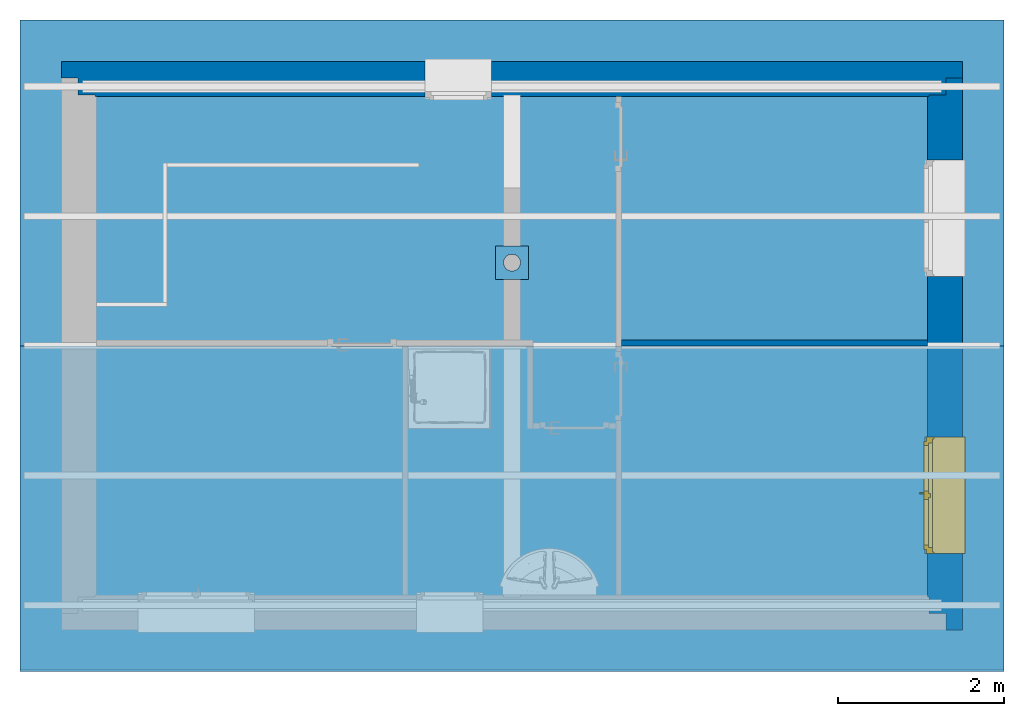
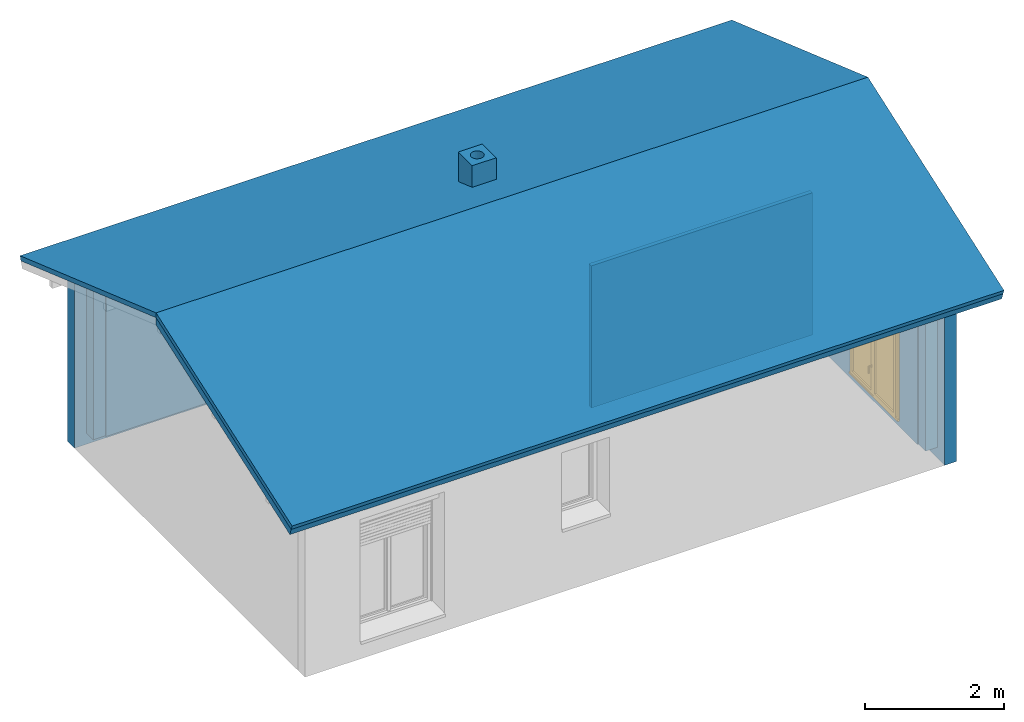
# One storey, part 3 of 7: 3 building element parts, 3 walls, 1 chimney, 1 door, 3 openings, 3 elements without a shape of their own.
"""IFC4 building model written with IfcOpenShell, lengths in metres."""

from ifc_helpers import new_model, entity, si_unit, converted_unit, frame, frame_2d, origin, origin_with_axes, place, context, subcontext, project, spatial, polyline, rectangle, outline, extrude, clip, bounded_halfspace, closed_shell, open_shell, faceted_brep, surface_model, source, transform, mapped, material, layer, layer_set, layer_usage, type_object, element, fill, aggregate, save


model = new_model("IFC4")

# Units and contexts
model_context = context("Model", 3, precision=1e-05, world=origin())
body_context = subcontext(model_context, "Body", "Model", "MODEL_VIEW")
ifc_project = project(units=[si_unit("LENGTHUNIT", "METRE"), si_unit("AREAUNIT", "SQUARE_METRE"), si_unit("VOLUMEUNIT", "CUBIC_METRE"), si_unit("MASSUNIT", "GRAM", prefix="KILO"), converted_unit("PLANEANGLEUNIT", "DEGREE", entity("IfcPlaneAngleMeasure", 0.0174532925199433), si_unit("PLANEANGLEUNIT", "RADIAN"), dimensions=[0, 0, 0, 0, 0, 0, 0])], contexts=[model_context])

# Building, storey
building_placement = place(None, origin())
building = spatial("IfcBuilding", under=ifc_project, at=building_placement, Name="Projet de Construction", CompositionType="ELEMENT")
storey_placement = place(building_placement, frame((0.0, 0.0, 2.8)))
storey = spatial("IfcBuildingStorey", under=building, at=storey_placement, Name="R+1", CompositionType="ELEMENT", Elevation=2.8)

# Wall, opening
ifc_material_1 = material()
ifc_layer_1 = layer(ifc_material_1, 0.2)
ifc_material_2 = material()
ifc_layer_2 = layer(ifc_material_2, 0.2)
ifc_material_3 = material()
ifc_layer_3 = layer(ifc_material_3, 0.02)
ifc_layer_set_1 = layer_set([ifc_layer_1, ifc_layer_2, ifc_layer_3])
ifc_layer_usage_1 = layer_usage(ifc_layer_set_1, "AXIS2", "POSITIVE", 0.0)
wall_1_placement = place(storey_placement, frame((3.5540625, 8.13979166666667, 0.0), z_axis=(0.0, 0.0, 1.0), x_axis=(-1.0, 0.0, 0.0)))
wall_1 = element("IfcWall", 1, at=wall_1_placement, inside=storey, material=ifc_layer_usage_1, context=body_context, shape_type="Clipping", body=[
    clip(clip(clip(clip(extrude(outline(polyline([(-10.84, -0.42), (0.0, -0.42), (0.0, -0.22), (-0.2, -0.22), (-0.2, -0.02), (-0.4, -0.02), (-0.4, 0.0), (-10.44, 0.0), (-10.44, -0.02), (-10.64, -0.02), (-10.64, -0.22), (-10.84, -0.22), (-10.84, -0.42)])), frame((10.84, 0.42, 0.0), z_axis=(0.0, 0.0, 1.0), x_axis=(1.0, 0.0, 0.0)), (0.0, 0.0, 1.0), 3.17000000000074), bounded_halfspace(frame((5.42, 0.354999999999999, 0.2), z_axis=(0.0, 0.0, 1.0), x_axis=(0.0, 1.0, 0.0)), True, origin_with_axes(), polyline([(10.44, 0.4), (10.44, 0.42), (0.4, 0.42), (0.400000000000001, 0.4), (0.2, 0.4), (0.2, 0.2), (10.64, 0.2), (10.64, 0.4), (10.44, 0.4)]))), bounded_halfspace(frame((5.42, 0.0999999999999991, 3.13500000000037), z_axis=(0.0, 0.330350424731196, -0.943858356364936), x_axis=(0.0, -0.943858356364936, -0.330350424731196)), True, origin_with_axes(), polyline([(0.0, 0.199999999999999), (0.0, -9.09494701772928e-16), (10.84, -9.09494701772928e-16), (10.84, 0.199999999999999), (0.0, 0.199999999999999)]))), bounded_halfspace(frame((5.42, 0.3, 2.95000000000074), z_axis=(0.0, 0.0, -1.0), x_axis=(1.0, 0.0, 0.0)), True, origin_with_axes(), polyline([(0.2, 0.2), (10.64, 0.2), (10.64, 0.4), (0.2, 0.4), (0.2, 0.2)]))), bounded_halfspace(frame((5.42, 0.41, 2.8), z_axis=(0.0, 0.0, -1.0), x_axis=(1.0, 0.0, 0.0)), True, origin_with_axes(), polyline([(0.4, 0.4), (10.44, 0.4), (10.44, 0.42), (0.4, 0.42), (0.4, 0.4)]))),
])
opening_1_placement = place(wall_1_placement, frame((6.46402015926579, 0.2, 1.1), z_axis=(0.0, -1.0, 0.0), x_axis=(0.0, 0.0, 1.0)))
element("IfcOpeningStandardCase", 2, at=opening_1_placement, cuts=wall_1, Name="Baie de fenêtre", PredefinedType="OPENING", context=body_context, shape_type="SweptSolid", body=[
    extrude(outline(polyline([(0.0, 0.8), (1.35, 0.8), (1.35, 0.0), (0.0, 0.0), (0.0, 0.8)])), origin_with_axes(), (0.0, 0.0, 1.0), 0.2),
    extrude(outline(polyline([(0.0, 0.8), (1.35, 0.8), (1.35, 0.0), (0.0, 0.0), (0.0, 0.8)])), frame((0.0, 0.0, -0.2), z_axis=(0.0, 0.0, 1.0), x_axis=(1.0, 0.0, 0.0)), (0.0, 0.0, 1.0), 0.2),
    extrude(outline(polyline([(0.0, 0.8), (1.35, 0.8), (1.35, 0.0), (0.0, 0.0), (0.0, 0.8)])), frame((0.0, 0.0, -0.22), z_axis=(0.0, 0.0, 1.0), x_axis=(1.0, 0.0, 0.0)), (0.0, 0.0, 1.0), 0.02),
])

# Wall, openings, door
ifc_material_4 = material()
ifc_layer_4 = layer(ifc_material_4, 0.2)
ifc_material_5 = material()
ifc_layer_5 = layer(ifc_material_5, 0.2)
ifc_material_6 = material()
ifc_layer_6 = layer(ifc_material_6, 0.02)
ifc_layer_set_2 = layer_set([ifc_layer_4, ifc_layer_5, ifc_layer_6])
ifc_layer_usage_2 = layer_usage(ifc_layer_set_2, "AXIS2", "POSITIVE", 0.0)
wall_2_placement = place(storey_placement, frame((3.5540625, 1.29979166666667, 0.0), z_axis=(0.0, 0.0, 1.0), x_axis=(2.05458140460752e-16, 1.0, 0.0)))
wall_2 = element("IfcWall", 3, at=wall_2_placement, inside=storey, material=ifc_layer_usage_2, context=body_context, shape_type="Clipping", body=[
    clip(clip(clip(clip(extrude(outline(polyline([(8.62924189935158e-17, -0.42), (6.64, -0.42), (6.64, -0.22), (6.44, -0.22), (6.44, -0.02), (6.42, -0.02), (6.42, -4.52007909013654e-17), (0.4, 8.21832561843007e-17), (0.4, -0.0199999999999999), (0.2, -0.02), (0.2, -0.22), (4.52007909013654e-17, -0.22), (8.62924189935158e-17, -0.42)])), frame((-8.62924189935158e-17, 0.42, 0.0), z_axis=(0.0, 0.0, 1.0), x_axis=(1.0, 0.0, 0.0)), (0.0, 0.0, 1.0), 4.29700000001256), bounded_halfspace(frame((3.365, 0.355, 0.2), z_axis=(0.0, 0.0, 1.0), x_axis=(-2.05458140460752e-16, 1.0, 0.0)), True, origin_with_axes(), polyline([(6.44, 0.2), (6.44, 0.4), (6.42, 0.4), (6.42, 0.42), (0.4, 0.42), (0.4, 0.4), (0.199999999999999, 0.4), (0.2, 0.2), (6.44, 0.2)]))), bounded_halfspace(frame((5.5, 0.2, 3.56900000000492), z_axis=(-0.330350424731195, -1.50758855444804e-16, -0.943858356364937), x_axis=(0.943858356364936, 6.06261507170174e-17, -0.330350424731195)), True, origin_with_axes(), polyline([(3.42, -2.06827861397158e-16), (6.64, -2.01948391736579e-31), (6.64, 0.2), (6.44, 0.2), (6.44, 0.4), (3.42, 0.4), (3.42, -2.06827861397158e-16)]))), bounded_halfspace(frame((3.41, 0.41, 2.8), z_axis=(0.0, 0.0, -1.0), x_axis=(1.0, -2.11601407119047e-17, 0.0)), True, origin_with_axes(), polyline([(0.4, 0.4), (6.42, 0.4), (6.42, 0.42), (0.4, 0.42), (0.4, 0.4)]))), bounded_halfspace(frame((1.20666666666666, 0.2, 3.52233333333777), z_axis=(0.330350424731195, -2.44558932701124e-16, -0.943858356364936), x_axis=(2.05458140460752e-16, -1.0, 0.0)), True, origin_with_axes(), polyline([(-4.95838978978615e-16, 0.2), (-4.54747350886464e-16, 4.54747350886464e-16), (3.42, -2.06827861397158e-16), (3.42, 0.4), (0.199999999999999, 0.4), (0.2, 0.2), (-4.95838978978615e-16, 0.2)]))),
])
opening_2_placement = place(wall_2_placement, frame((2.32, 0.2, 0.3), z_axis=(0.0, -1.0, 0.0), x_axis=(0.0, 0.0, 1.0)))
opening_2 = element("IfcOpeningStandardCase", 4, at=opening_2_placement, cuts=wall_2, Name="Baie de porte", PredefinedType="OPENING", context=body_context, shape_type="SweptSolid", body=[
    extrude(outline(polyline([(0.0, 1.4), (2.15, 1.4), (2.15, 0.0), (0.0, 0.0), (0.0, 1.4)])), origin_with_axes(), (0.0, 0.0, 1.0), 0.2),
    extrude(outline(polyline([(0.0, 1.4), (2.15, 1.4), (2.15, 0.0), (0.0, 0.0), (0.0, 1.4)])), frame((0.0, 6.49639072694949e-17, -0.2), z_axis=(0.0, 0.0, 1.0), x_axis=(1.0, 0.0, 0.0)), (0.0, 0.0, 1.0), 0.2),
    extrude(outline(polyline([(0.0, 1.4), (2.15, 1.4), (2.15, 0.0), (0.0, 0.0), (0.0, 1.4)])), frame((0.0, 7.14602979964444e-17, -0.22), z_axis=(0.0, 0.0, 1.0), x_axis=(1.0, 0.0, 0.0)), (0.0, 0.0, 1.0), 0.02),
])
opening_3_placement = place(wall_2_placement, frame((5.655, 0.2, 1.0), z_axis=(0.0, -1.0, 0.0), x_axis=(0.0, 0.0, 1.0)))
element("IfcOpeningStandardCase", 5, at=opening_3_placement, cuts=wall_2, Name="Baie de fenêtre", PredefinedType="OPENING", context=body_context, shape_type="SweptSolid", body=[
    extrude(outline(polyline([(0.0, 1.4), (1.45, 1.4), (1.45, 0.0), (0.0, 0.0), (0.0, 1.4)])), origin_with_axes(), (0.0, 0.0, 1.0), 0.2),
    extrude(outline(polyline([(0.0, 1.4), (1.45, 1.4), (1.45, 0.0), (0.0, 0.0), (0.0, 1.4)])), frame((0.0, 6.49639072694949e-17, -0.2), z_axis=(0.0, 0.0, 1.0), x_axis=(1.0, 0.0, 0.0)), (0.0, 0.0, 1.0), 0.2),
    extrude(outline(polyline([(0.0, 1.4), (1.45, 1.4), (1.45, 0.0), (0.0, 0.0), (0.0, 1.4)])), frame((0.0, 7.14602979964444e-17, -0.22), z_axis=(0.0, 0.0, 1.0), x_axis=(1.0, 0.0, 0.0)), (0.0, 0.0, 1.0), 0.02),
])
ifc_material_7 = material()
door_type = type_object("IfcDoorType", Name="3 vantaux blanc, monté", OperationType="NOTDEFINED", ParameterTakesPrecedence=False, PredefinedType="DOOR")
shared_shape = source(origin_with_axes(), body_context, "Body", "SurfaceModel", [
    surface_model("IfcShellBasedSurfaceModel", [(0.0, 0.0199999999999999, 0.03), (0.0, 0.39, 0.03), (-3.67394039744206e-18, 0.39, 0.06), (-2.44929359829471e-18, 0.0, 0.05), (3.67394039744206e-18, 0.0, 0.0), (3.67394039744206e-18, 0.0199999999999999, 0.0), (1.4, 0.39, 0.0300000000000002), (1.4, 0.0199999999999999, 0.0300000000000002), (1.4, 0.0199999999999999, 1.70530256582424e-16), (1.4, 0.0, 1.70530256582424e-16), (1.4, 0.0, 0.0500000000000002), (1.4, 0.39, 0.0600000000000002)], [closed_shell([[[0, 1, 2, 3, 4, 5]], [[6, 7, 8, 9, 10, 11]], [[1, 0, 7, 6]], [[2, 1, 6, 11]], [[3, 2, 11, 10]], [[4, 3, 10, 9]], [[5, 4, 9, 8]], [[0, 5, 8, 7]]], orient=[[False], [False], [False], [False], [False], [False], [False], [False]])]),
    surface_model("IfcShellBasedSurfaceModel", [(0.0, 0.48, 0.03), (-3.67394039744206e-18, 0.48, 0.06), (-3.67394039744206e-18, 0.43, 0.06), (0.0, 0.43, 0.03), (1.4, 0.43, 0.0300000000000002), (1.4, 0.43, 0.0600000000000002), (1.4, 0.48, 0.0600000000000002), (1.4, 0.48, 0.0300000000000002)], [closed_shell([[[0, 1, 2, 3]], [[4, 5, 6, 7]], [[3, 4, 7, 0]], [[2, 5, 4, 3]], [[1, 6, 5, 2]], [[0, 7, 6, 1]]], orient=[[False], [False], [False], [False], [False], [False]])]),
    surface_model("IfcShellBasedSurfaceModel", [(0.0, 0.39, 2.18), (0.0, 0.39, 1.98), (1.4, 0.39, 1.98), (1.4, 0.39, 2.18), (0.0, 0.19, 1.98), (0.0, 0.19, 2.18), (1.4, 0.19, 2.18), (1.4, 0.19, 1.98)], [closed_shell([[[0, 1, 2, 3]], [[4, 5, 6, 7]], [[1, 0, 5, 4]], [[2, 1, 4, 7]], [[3, 2, 7, 6]], [[0, 3, 6, 5]]], orient=[[False], [False], [False], [False], [False], [False]])]),
    surface_model("IfcShellBasedSurfaceModel", [(0.0, 0.39, 1.98), (0.0, 0.39, 0.03), (0.02, 0.39, 0.03), (0.02, 0.39, 1.98), (0.0, 0.37, 0.03), (0.0, 0.37, 1.98), (0.02, 0.37, 1.98), (0.02, 0.37, 0.03)], [closed_shell([[[0, 1, 2, 3]], [[4, 5, 6, 7]], [[1, 0, 5, 4]], [[2, 1, 4, 7]], [[3, 2, 7, 6]], [[0, 3, 6, 5]]], orient=[[False], [False], [False], [False], [False], [False]])]),
    surface_model("IfcShellBasedSurfaceModel", [(1.38, 0.39, 1.98), (1.38, 0.39, 0.03), (1.4, 0.39, 0.03), (1.4, 0.39, 1.98), (1.38, 0.37, 0.03), (1.38, 0.37, 1.98), (1.4, 0.37, 1.98), (1.4, 0.37, 0.03)], [closed_shell([[[0, 1, 2, 3]], [[4, 5, 6, 7]], [[1, 0, 5, 4]], [[2, 1, 4, 7]], [[3, 2, 7, 6]], [[0, 3, 6, 5]]], orient=[[False], [False], [False], [False], [False], [False]])]),
    surface_model("IfcShellBasedSurfaceModel", [(0.01, 0.385, 1.975), (0.01, 0.385, 1.925), (1.39, 0.385, 1.925), (1.39, 0.385, 1.975), (0.01, 0.375, 1.925), (0.01, 0.375, 1.975), (1.39, 0.375, 1.975), (1.39, 0.375, 1.925)], [closed_shell([[[0, 1, 2, 3]], [[4, 5, 6, 7]], [[1, 0, 5, 4]], [[2, 1, 4, 7]], [[3, 2, 7, 6]], [[0, 3, 6, 5]]], orient=[[False], [False], [False], [False], [False], [False]])]),
    surface_model("IfcShellBasedSurfaceModel", [(0.01, 0.385, 1.92), (0.01, 0.385, 1.87), (1.39, 0.385, 1.87), (1.39, 0.385, 1.92), (0.01, 0.375, 1.87), (0.01, 0.375, 1.92), (1.39, 0.375, 1.92), (1.39, 0.375, 1.87)], [closed_shell([[[0, 1, 2, 3]], [[4, 5, 6, 7]], [[1, 0, 5, 4]], [[2, 1, 4, 7]], [[3, 2, 7, 6]], [[0, 3, 6, 5]]], orient=[[False], [False], [False], [False], [False], [False]])]),
    surface_model("IfcShellBasedSurfaceModel", [(0.01, 0.385, 1.865), (0.01, 0.385, 1.815), (1.39, 0.385, 1.815), (1.39, 0.385, 1.865), (0.01, 0.375, 1.815), (0.01, 0.375, 1.865), (1.39, 0.375, 1.865), (1.39, 0.375, 1.815)], [closed_shell([[[0, 1, 2, 3]], [[4, 5, 6, 7]], [[1, 0, 5, 4]], [[2, 1, 4, 7]], [[3, 2, 7, 6]], [[0, 3, 6, 5]]], orient=[[False], [False], [False], [False], [False], [False]])]),
    surface_model("IfcShellBasedSurfaceModel", [(0.01, 0.385, 1.81), (0.01, 0.385, 1.76), (1.39, 0.385, 1.76), (1.39, 0.385, 1.81), (0.01, 0.375, 1.76), (0.01, 0.375, 1.81), (1.39, 0.375, 1.81), (1.39, 0.375, 1.76)], [closed_shell([[[0, 1, 2, 3]], [[4, 5, 6, 7]], [[1, 0, 5, 4]], [[2, 1, 4, 7]], [[3, 2, 7, 6]], [[0, 3, 6, 5]]], orient=[[False], [False], [False], [False], [False], [False]])]),
    surface_model("IfcShellBasedSurfaceModel", [(0.01, 0.385, 1.755), (0.01, 0.385, 1.705), (1.39, 0.385, 1.705), (1.39, 0.385, 1.755), (0.01, 0.375, 1.705), (0.01, 0.375, 1.755), (1.39, 0.375, 1.755), (1.39, 0.375, 1.705)], [closed_shell([[[0, 1, 2, 3]], [[4, 5, 6, 7]], [[1, 0, 5, 4]], [[2, 1, 4, 7]], [[3, 2, 7, 6]], [[0, 3, 6, 5]]], orient=[[False], [False], [False], [False], [False], [False]])]),
    surface_model("IfcShellBasedSurfaceModel", [(0.01, 0.385, 1.7), (0.01, 0.385, 1.65), (1.39, 0.385, 1.65), (1.39, 0.385, 1.7), (0.01, 0.375, 1.65), (0.01, 0.375, 1.7), (1.39, 0.375, 1.7), (1.39, 0.375, 1.65)], [closed_shell([[[0, 1, 2, 3]], [[4, 5, 6, 7]], [[1, 0, 5, 4]], [[2, 1, 4, 7]], [[3, 2, 7, 6]], [[0, 3, 6, 5]]], orient=[[False], [False], [False], [False], [False], [False]])]),
    surface_model("IfcShellBasedSurfaceModel", [(0.01, 0.385, 1.645), (0.01, 0.385, 1.595), (1.39, 0.385, 1.595), (1.39, 0.385, 1.645), (0.01, 0.375, 1.595), (0.01, 0.375, 1.645), (1.39, 0.375, 1.645), (1.39, 0.375, 1.595)], [closed_shell([[[0, 1, 2, 3]], [[4, 5, 6, 7]], [[1, 0, 5, 4]], [[2, 1, 4, 7]], [[3, 2, 7, 6]], [[0, 3, 6, 5]]], orient=[[False], [False], [False], [False], [False], [False]])]),
    surface_model("IfcShellBasedSurfaceModel", [(0.01, 0.385, 1.59), (0.01, 0.385, 1.54), (1.39, 0.385, 1.54), (1.39, 0.385, 1.59), (0.01, 0.375, 1.54), (0.01, 0.375, 1.59), (1.39, 0.375, 1.59), (1.39, 0.375, 1.54)], [closed_shell([[[0, 1, 2, 3]], [[4, 5, 6, 7]], [[1, 0, 5, 4]], [[2, 1, 4, 7]], [[3, 2, 7, 6]], [[0, 3, 6, 5]]], orient=[[False], [False], [False], [False], [False], [False]])]),
    surface_model("IfcShellBasedSurfaceModel", [(0.01, 0.385, 1.535), (0.01, 0.385, 1.485), (1.39, 0.385, 1.485), (1.39, 0.385, 1.535), (0.01, 0.375, 1.485), (0.01, 0.375, 1.535), (1.39, 0.375, 1.535), (1.39, 0.375, 1.485)], [closed_shell([[[0, 1, 2, 3]], [[4, 5, 6, 7]], [[1, 0, 5, 4]], [[2, 1, 4, 7]], [[3, 2, 7, 6]], [[0, 3, 6, 5]]], orient=[[False], [False], [False], [False], [False], [False]])]),
    surface_model("IfcShellBasedSurfaceModel", [(0.01, 0.385, 1.48), (0.01, 0.385, 1.43), (1.39, 0.385, 1.43), (1.39, 0.385, 1.48), (0.01, 0.375, 1.43), (0.01, 0.375, 1.48), (1.39, 0.375, 1.48), (1.39, 0.375, 1.43)], [closed_shell([[[0, 1, 2, 3]], [[4, 5, 6, 7]], [[1, 0, 5, 4]], [[2, 1, 4, 7]], [[3, 2, 7, 6]], [[0, 3, 6, 5]]], orient=[[False], [False], [False], [False], [False], [False]])]),
    surface_model("IfcShellBasedSurfaceModel", [(0.0, 0.46, 2.18), (0.0, 0.46, 0.03), (0.07, 0.46, 0.03), (0.07, 0.46, 2.18), (0.0, 0.39, 0.03), (0.0, 0.39, 2.18), (0.07, 0.39, 2.18), (0.07, 0.39, 0.03)], [closed_shell([[[0, 1, 2, 3]], [[4, 5, 6, 7]], [[1, 0, 5, 4]], [[2, 1, 4, 7]], [[3, 2, 7, 6]], [[0, 3, 6, 5]]], orient=[[False], [False], [False], [False], [False], [False]])]),
    surface_model("IfcShellBasedSurfaceModel", [(1.33, 0.46, 2.18), (1.33, 0.46, 0.03), (1.4, 0.46, 0.03), (1.4, 0.46, 2.18), (1.33, 0.39, 0.03), (1.33, 0.39, 2.18), (1.4, 0.39, 2.18), (1.4, 0.39, 0.03)], [closed_shell([[[0, 1, 2, 3]], [[4, 5, 6, 7]], [[1, 0, 5, 4]], [[2, 1, 4, 7]], [[3, 2, 7, 6]], [[0, 3, 6, 5]]], orient=[[False], [False], [False], [False], [False], [False]])]),
    surface_model("IfcShellBasedSurfaceModel", [(0.07, 0.46, 0.1), (0.07, 0.46, 0.03), (1.33, 0.46, 0.03), (1.33, 0.46, 0.1), (0.07, 0.39, 0.03), (0.07, 0.39, 0.1), (1.33, 0.39, 0.1), (1.33, 0.39, 0.03)], [closed_shell([[[0, 1, 2, 3]], [[4, 5, 6, 7]], [[1, 0, 5, 4]], [[2, 1, 4, 7]], [[3, 2, 7, 6]], [[0, 3, 6, 5]]], orient=[[False], [False], [False], [False], [False], [False]])]),
    surface_model("IfcShellBasedSurfaceModel", [(0.07, 0.46, 2.18), (0.07, 0.46, 2.11), (1.33, 0.46, 2.11), (1.33, 0.46, 2.18), (0.07, 0.39, 2.11), (0.07, 0.39, 2.18), (1.33, 0.39, 2.18), (1.33, 0.39, 2.11)], [closed_shell([[[0, 1, 2, 3]], [[4, 5, 6, 7]], [[1, 0, 5, 4]], [[2, 1, 4, 7]], [[3, 2, 7, 6]], [[0, 3, 6, 5]]], orient=[[False], [False], [False], [False], [False], [False]])]),
    surface_model("IfcShellBasedSurfaceModel", [(0.05, 0.49, 2.13), (0.05, 0.49, 0.08), (0.1, 0.49, 0.08), (0.1, 0.49, 2.13), (0.05, 0.44, 0.08), (0.05, 0.44, 2.13), (0.1, 0.44, 2.13), (0.1, 0.44, 0.08)], [closed_shell([[[0, 1, 2, 3]], [[4, 5, 6, 7]], [[1, 0, 5, 4]], [[2, 1, 4, 7]], [[3, 2, 7, 6]], [[0, 3, 6, 5]]], orient=[[False], [False], [False], [False], [False], [False]])]),
    surface_model("IfcShellBasedSurfaceModel", [(0.6495, 0.49, 2.13), (0.6495, 0.49, 0.08), (0.6995, 0.49, 0.08), (0.6995, 0.49, 2.13), (0.6495, 0.44, 0.08), (0.6495, 0.44, 2.13), (0.6995, 0.44, 2.13), (0.6995, 0.44, 0.08)], [closed_shell([[[0, 1, 2, 3]], [[4, 5, 6, 7]], [[1, 0, 5, 4]], [[2, 1, 4, 7]], [[3, 2, 7, 6]], [[0, 3, 6, 5]]], orient=[[False], [False], [False], [False], [False], [False]])]),
    surface_model("IfcShellBasedSurfaceModel", [(0.1, 0.49, 0.13), (0.1, 0.49, 0.08), (0.6495, 0.49, 0.08), (0.6495, 0.49, 0.13), (0.1, 0.44, 0.08), (0.1, 0.44, 0.13), (0.6495, 0.44, 0.13), (0.6495, 0.44, 0.08)], [closed_shell([[[0, 1, 2, 3]], [[4, 5, 6, 7]], [[1, 0, 5, 4]], [[2, 1, 4, 7]], [[3, 2, 7, 6]], [[0, 3, 6, 5]]], orient=[[False], [False], [False], [False], [False], [False]])]),
    surface_model("IfcShellBasedSurfaceModel", [(0.1, 0.49, 2.13), (0.1, 0.49, 2.08), (0.6495, 0.49, 2.08), (0.6495, 0.49, 2.13), (0.1, 0.44, 2.08), (0.1, 0.44, 2.13), (0.6495, 0.44, 2.13), (0.6495, 0.44, 2.08)], [closed_shell([[[0, 1, 2, 3]], [[4, 5, 6, 7]], [[1, 0, 5, 4]], [[2, 1, 4, 7]], [[3, 2, 7, 6]], [[0, 3, 6, 5]]], orient=[[False], [False], [False], [False], [False], [False]])]),
    surface_model("IfcShellBasedSurfaceModel", [(0.6745, 0.44, 2.11), (0.6745, 0.44, 0.1), (0.7245, 0.44, 0.1), (0.7245, 0.44, 2.11), (0.6745, 0.415, 0.1), (0.6745, 0.415, 2.11), (0.7245, 0.415, 2.11), (0.7245, 0.415, 0.1)], [closed_shell([[[0, 1, 2, 3]], [[4, 5, 6, 7]], [[1, 0, 5, 4]], [[2, 1, 4, 7]], [[3, 2, 7, 6]], [[0, 3, 6, 5]]], orient=[[False], [False], [False], [False], [False], [False]])]),
    surface_model("IfcShellBasedSurfaceModel", [(0.662, 0.49, 0.6), (0.687, 0.49, 0.6), (0.687, 0.49, 0.56), (0.662, 0.49, 0.56), (0.662, 0.5, 0.56), (0.687, 0.5, 0.56), (0.687, 0.5, 0.6), (0.662, 0.5, 0.6)], [closed_shell([[[0, 1, 2, 3]], [[4, 5, 6, 7]], [[3, 4, 7, 0]], [[2, 5, 4, 3]], [[1, 6, 5, 2]], [[0, 7, 6, 1]]], orient=[[False], [False], [False], [False], [False], [False]])]),
    surface_model("IfcShellBasedSurfaceModel", [(0.6845, 0.5, 0.58), (0.683160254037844, 0.5, 0.575), (0.6795, 0.5, 0.571339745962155), (0.6745, 0.5, 0.57), (0.6695, 0.5, 0.571339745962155), (0.665839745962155, 0.5, 0.575), (0.6645, 0.5, 0.58), (0.665839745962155, 0.5, 0.585), (0.6695, 0.5, 0.588660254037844), (0.6745, 0.5, 0.59), (0.6795, 0.5, 0.588660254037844), (0.683160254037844, 0.5, 0.585), (0.683160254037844, 0.545, 0.585), (0.6845, 0.54, 0.58), (0.6795, 0.548660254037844, 0.588660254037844), (0.6745, 0.55, 0.59), (0.6695, 0.548660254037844, 0.588660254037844), (0.665839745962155, 0.545, 0.585), (0.6645, 0.54, 0.58), (0.665839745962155, 0.535, 0.575), (0.6695, 0.531339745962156, 0.571339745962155), (0.6745, 0.53, 0.57), (0.6795, 0.531339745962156, 0.571339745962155), (0.683160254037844, 0.535, 0.575), (0.6845, 0.54, 0.465), (0.683160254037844, 0.545, 0.465), (0.6795, 0.548660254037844, 0.465), (0.6745, 0.55, 0.465), (0.6695, 0.548660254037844, 0.465), (0.665839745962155, 0.545, 0.465), (0.6645, 0.54, 0.465), (0.665839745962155, 0.535, 0.465), (0.6695, 0.531339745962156, 0.465), (0.6745, 0.53, 0.465), (0.6795, 0.531339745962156, 0.465), (0.683160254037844, 0.535, 0.465)], [closed_shell([[[0, 1, 2, 3, 4, 5, 6, 7, 8, 9, 10, 11]], [[0, 11, 12, 13]], [[11, 10, 14, 12]], [[10, 9, 15, 14]], [[9, 8, 16, 15]], [[8, 7, 17, 16]], [[7, 6, 18, 17]], [[6, 5, 19, 18]], [[5, 4, 20, 19]], [[4, 3, 21, 20]], [[3, 2, 22, 21]], [[2, 1, 23, 22]], [[1, 0, 13, 23]], [[24, 25, 26, 27, 28, 29, 30, 31, 32, 33, 34, 35]], [[13, 12, 25, 24]], [[12, 14, 26, 25]], [[14, 15, 27, 26]], [[15, 16, 28, 27]], [[16, 17, 29, 28]], [[17, 18, 30, 29]], [[18, 19, 31, 30]], [[19, 20, 32, 31]], [[20, 21, 33, 32]], [[21, 22, 34, 33]], [[22, 23, 35, 34]], [[23, 13, 24, 35]]], orient=[[False], [False], [False], [False], [False], [False], [False], [False], [False], [False], [False], [False], [False], [False], [False], [False], [False], [False], [False], [False], [False], [False], [False], [False], [False], [False]])]),
    surface_model("IfcShellBasedSurfaceModel", [(0.7005, 0.49, 2.13), (0.7005, 0.49, 0.08), (0.7505, 0.49, 0.08), (0.7505, 0.49, 2.13), (0.7005, 0.44, 0.08), (0.7005, 0.44, 2.13), (0.7505, 0.44, 2.13), (0.7505, 0.44, 0.08)], [closed_shell([[[0, 1, 2, 3]], [[4, 5, 6, 7]], [[1, 0, 5, 4]], [[2, 1, 4, 7]], [[3, 2, 7, 6]], [[0, 3, 6, 5]]], orient=[[False], [False], [False], [False], [False], [False]])]),
    surface_model("IfcShellBasedSurfaceModel", [(1.3, 0.49, 2.13), (1.3, 0.49, 0.08), (1.35, 0.49, 0.08), (1.35, 0.49, 2.13), (1.3, 0.44, 0.08), (1.3, 0.44, 2.13), (1.35, 0.44, 2.13), (1.35, 0.44, 0.08)], [closed_shell([[[0, 1, 2, 3]], [[4, 5, 6, 7]], [[1, 0, 5, 4]], [[2, 1, 4, 7]], [[3, 2, 7, 6]], [[0, 3, 6, 5]]], orient=[[False], [False], [False], [False], [False], [False]])]),
    surface_model("IfcShellBasedSurfaceModel", [(0.7505, 0.49, 0.13), (0.7505, 0.49, 0.08), (1.3, 0.49, 0.08), (1.3, 0.49, 0.13), (0.7505, 0.44, 0.08), (0.7505, 0.44, 0.13), (1.3, 0.44, 0.13), (1.3, 0.44, 0.08)], [closed_shell([[[0, 1, 2, 3]], [[4, 5, 6, 7]], [[1, 0, 5, 4]], [[2, 1, 4, 7]], [[3, 2, 7, 6]], [[0, 3, 6, 5]]], orient=[[False], [False], [False], [False], [False], [False]])]),
    surface_model("IfcShellBasedSurfaceModel", [(0.7505, 0.49, 2.13), (0.7505, 0.49, 2.08), (1.3, 0.49, 2.08), (1.3, 0.49, 2.13), (0.7505, 0.44, 2.08), (0.7505, 0.44, 2.13), (1.3, 0.44, 2.13), (1.3, 0.44, 2.08)], [closed_shell([[[0, 1, 2, 3]], [[4, 5, 6, 7]], [[1, 0, 5, 4]], [[2, 1, 4, 7]], [[3, 2, 7, 6]], [[0, 3, 6, 5]]], orient=[[False], [False], [False], [False], [False], [False]])]),
    surface_model("IfcShellBasedSurfaceModel", [(0.1, 0.465, 0.13), (0.6495, 0.465, 0.13), (0.6495, 0.465, 2.08), (0.1, 0.465, 2.08)], [open_shell([[[0, 1, 2, 3]]], orient=[[False]])]),
    surface_model("IfcShellBasedSurfaceModel", [(0.7505, 0.465, 0.13), (1.3, 0.465, 0.13), (1.3, 0.465, 2.08), (0.7505, 0.465, 2.08)], [open_shell([[[0, 1, 2, 3]]], orient=[[False]])]),
])
door_placement = place(opening_2_placement, frame((-0.03, 4.54747350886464e-16, 0.229999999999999), z_axis=(1.0, 0.0, 0.0), x_axis=(0.0, 1.0, 8.29934605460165e-17)))
door = element("IfcDoor", 6, at=door_placement, inside=storey, type_object=door_type, material=ifc_material_7, Name="3 vantaux blanc, monté", OverallHeight=2.15, OverallWidth=1.4, context=body_context, shape_type="MappedRepresentation", body=[
    mapped(shared_shape, transform((0.0, 0.0, 0.0), x_axis=(1.0, 0.0, 0.0), y_axis=(0.0, -1.0, 0.0), z_axis=(0.0, 0.0, 1.0), scale=1.0)),
])
fill(opening_2, door)

# Wall
ifc_material_8 = material()
ifc_layer_7 = layer(ifc_material_8, 0.07)
ifc_layer_set_3 = layer_set([ifc_layer_7])
ifc_layer_usage_3 = layer_usage(ifc_layer_set_3, "AXIS2", "POSITIVE", 0.0)
wall_3_placement = place(storey_placement, frame((3.1340625, 4.78979166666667, 0.3), z_axis=(0.0, 0.0, 1.0), x_axis=(-1.0, 0.0, 0.0)))
element("IfcWall", 7, at=wall_3_placement, inside=storey, material=ifc_layer_usage_3, context=body_context, shape_type="SweptSolid", body=[
    extrude(rectangle(XDim=3.68, YDim=0.07, at=frame_2d((1.84, 0.035), x_axis=(1.0, 0.0))), origin_with_axes(), (0.0, 0.0, 1.0), 2.5),
])

# Chimney
ifc_material_9 = material()
chimney_placement = place(storey_placement, frame((-2.0659375, 5.51979166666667, 0.3)))
element("IfcChimney", 8, at=chimney_placement, inside=storey, material=ifc_material_9, PredefinedType="USERDEFINED", context=body_context, shape_type="SweptSolid", body=[
    extrude(outline(polyline([(0.0, 0.0), (0.4, 0.0), (0.4, 0.4), (0.0, 0.4), (0.0, 0.0)]), holes=[polyline([(0.184161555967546, 0.3), (0.215838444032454, 0.3), (0.245964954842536, 0.290211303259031), (0.271592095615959, 0.271592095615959), (0.290211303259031, 0.245964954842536), (0.3, 0.215838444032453), (0.3, 0.184161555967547), (0.290211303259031, 0.154035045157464), (0.271592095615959, 0.128407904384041), (0.245964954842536, 0.10978869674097), (0.215838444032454, 0.1), (0.184161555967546, 0.1), (0.154035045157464, 0.10978869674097), (0.128407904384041, 0.128407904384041), (0.109788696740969, 0.154035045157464), (0.1, 0.184161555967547), (0.1, 0.215838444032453), (0.109788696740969, 0.245964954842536), (0.128407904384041, 0.271592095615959), (0.154035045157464, 0.290211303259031), (0.184161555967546, 0.3)])]), origin_with_axes(), (0.0, 0.0, 1.0), 4.30889620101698),
])

# Roof, slabs, building element parts
roof_placement = place(storey_placement, frame((0.0, 0.0, -2.8)))
roof = element("IfcRoof", 9, at=roof_placement, inside=storey, PredefinedType="NOTDEFINED")
ifc_material_10 = material()
slab_1_placement = place(roof_placement, origin())
slab_1 = element("IfcSlab", 10, at=slab_1_placement, material=ifc_material_10, PredefinedType="ROOF")
ifc_material_11 = material()
building_element_part_1_placement = place(storey_placement, frame((0.0, 0.0, -2.8)))
building_element_part_1 = element("IfcBuildingElementPart", 11, at=building_element_part_1_placement, material=ifc_material_11, context=body_context, shape_type="Brep", body=[
    faceted_brep([(4.0540625, 4.71979166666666, 7.22413772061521), (-7.7859375, 4.71979166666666, 7.22413772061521), (-7.7859375, 0.826219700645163, 5.86138753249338), (4.0540625, 0.826219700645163, 5.86138753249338), (4.0540625, 4.71979166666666, 7.30889620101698), (4.0540625, 0.799791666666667, 5.93689620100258), (-7.7859375, 0.799791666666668, 5.93689620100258), (-7.7859375, 4.71979166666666, 7.30889620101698)], [[[0, 1, 2, 3]], [[4, 5, 6, 7]], [[4, 7, 1, 0]], [[7, 6, 2, 1]], [[6, 5, 3, 2]], [[5, 4, 0, 3]]], orient=[[False], [False], [False], [False], [False], [False]]),
])
ifc_material_12 = material()
building_element_part_2_placement = place(storey_placement, frame((0.0, 0.0, -2.8)))
building_element_part_2 = element("IfcBuildingElementPart", 12, at=building_element_part_2_placement, material=ifc_material_12, context=body_context, shape_type="Brep", body=[
    faceted_brep([(4.0540625, 4.71979166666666, 7.09700000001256), (-7.7859375, 4.71979166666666, 7.09700000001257), (-7.7859375, 0.865861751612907, 5.74812452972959), (4.0540625, 0.865861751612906, 5.74812452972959), (4.0540625, 4.71979166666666, 7.22413772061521), (4.0540625, 0.826219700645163, 5.86138753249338), (-7.7859375, 0.826219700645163, 5.86138753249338), (-7.7859375, 4.71979166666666, 7.22413772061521)], [[[0, 1, 2, 3]], [[4, 5, 6, 7]], [[4, 7, 1, 0]], [[7, 6, 2, 1]], [[6, 5, 3, 2]], [[5, 4, 0, 3]]], orient=[[False], [False], [False], [False], [False], [False]]),
])
aggregate(slab_1, [building_element_part_1, building_element_part_2])
ifc_material_13 = material()
slab_2_placement = place(roof_placement, origin())
slab_2 = element("IfcSlab", 13, at=slab_2_placement, material=ifc_material_13, PredefinedType="ROOF")
aggregate(roof, [slab_1, slab_2])
ifc_material_14 = material()
building_element_part_3_placement = place(storey_placement, frame((0.0, 0.0, -2.8)))
building_element_part_3 = element("IfcBuildingElementPart", 14, at=building_element_part_3_placement, material=ifc_material_14, context=body_context, shape_type="Brep", body=[
    faceted_brep([(-7.7859375, 4.71979166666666, 7.22413772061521), (4.0540625, 4.71979166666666, 7.22413772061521), (4.0540625, 8.61336363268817, 5.86138753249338), (-7.7859375, 8.61336363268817, 5.86138753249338), (-7.7859375, 4.71979166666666, 7.30889620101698), (-7.7859375, 8.63979166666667, 5.93689620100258), (4.0540625, 8.63979166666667, 5.93689620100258), (4.0540625, 4.71979166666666, 7.30889620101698)], [[[0, 1, 2, 3]], [[4, 5, 6, 7]], [[4, 7, 1, 0]], [[7, 6, 2, 1]], [[6, 5, 3, 2]], [[5, 4, 0, 3]]], orient=[[False], [False], [False], [False], [False], [False]]),
])
aggregate(slab_2, [building_element_part_3])

save(model, "model.ifc")
